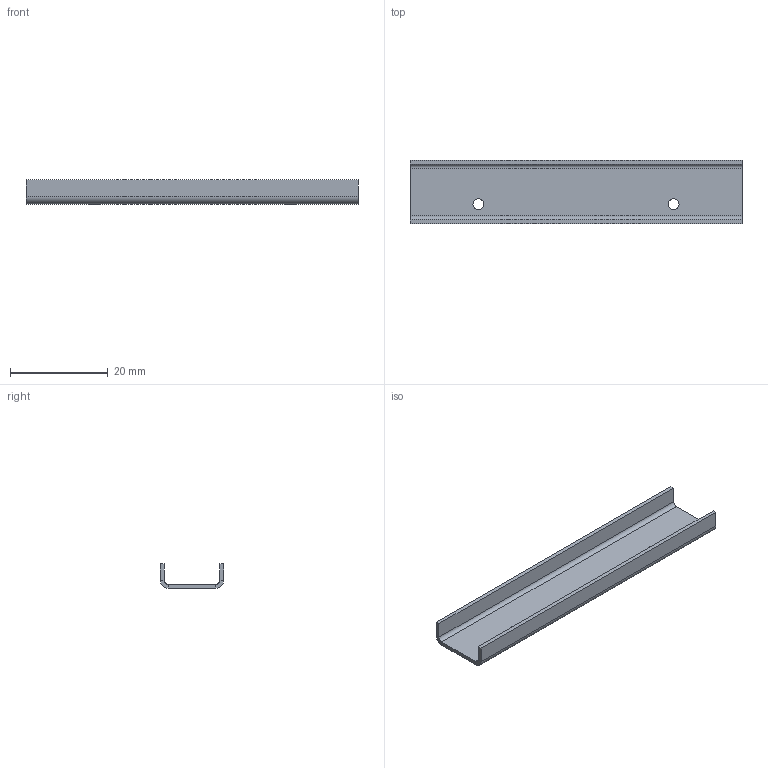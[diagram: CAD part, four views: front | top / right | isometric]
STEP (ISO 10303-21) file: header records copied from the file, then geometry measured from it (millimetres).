
FILE_DESCRIPTION(/* description */ (''),/* implementation_level */ '2;1');
FILE_NAME(/* name */ 'PDB-07-701_Cable_Routing_Channel_R01.step',/* time_stamp */ '2026-11-24T01:50:40+05:00',/* author */ (''),/* organization */ (''),/* preprocessor_version */ 'ST-DEVELOPER v20.2',/* originating_system */ 'Autodesk Translation Framework v15.17.0.0',/* authorisation */ '');
FILE_SCHEMA (('AUTOMOTIVE_DESIGN { 1 0 10303 214 3 1 1 }'));
Length unit declared in the file: centimetre
Products named in the file (1): 2026-11-24-01-50-40-383
Bounding box: 68 x 13 x 5 mm (x, y, z)
Volume: 1102 mm3; surface area: 2907.6 mm2
Topology: 1 solids, 1 shells, 24 faces, 50 edges, 28 vertices
Faces by surface type: plane 18, cylinder 6
Full cylindrical faces by diameter (mm): 2.2 x2
Entity records: 659 total; most frequent: DIRECTION 112, CARTESIAN_POINT 103, ORIENTED_EDGE 100, EDGE_CURVE 50, LINE 38, VECTOR 38, AXIS2_PLACEMENT_3D 37, EDGE_LOOP 28
